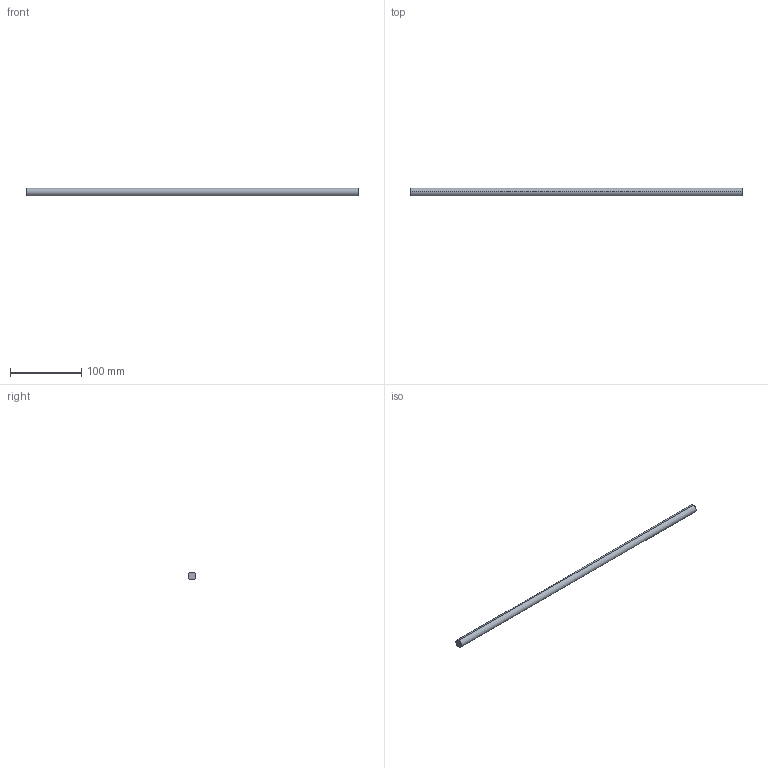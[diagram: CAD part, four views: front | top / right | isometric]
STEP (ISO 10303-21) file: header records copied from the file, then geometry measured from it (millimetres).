
FILE_DESCRIPTION (( 'STEP AP214' ), '1' );
FILE_NAME ('Querreling_Frontblende_Innenlade_KS-16_KAB-550.step', '2010-09-22T15:05:28', ( 'grass' ), ( '' ), 'SwSTEP 2.0', 'SolidWorks 2010', '' );
FILE_SCHEMA (( 'AUTOMOTIVE_DESIGN' ));
Length unit declared in the file: millimetre
Products named in the file (1): Querreling_Frontblende_Innenlade_KS-16_KAB-550
Bounding box: 465 x 11 x 11 mm (x, y, z)
Volume: 44190.4 mm3; surface area: 16259.3 mm2
Topology: 1 solids, 1 shells, 4 faces, 6 edges, 4 vertices
Faces by surface type: cylinder 2, plane 2
Entity records: 128 total; most frequent: DIRECTION 20, CARTESIAN_POINT 15, ORIENTED_EDGE 12, AXIS2_PLACEMENT_3D 9, EDGE_CURVE 6, FACE_OUTER_BOUND 4, CIRCLE 4, EDGE_LOOP 4
